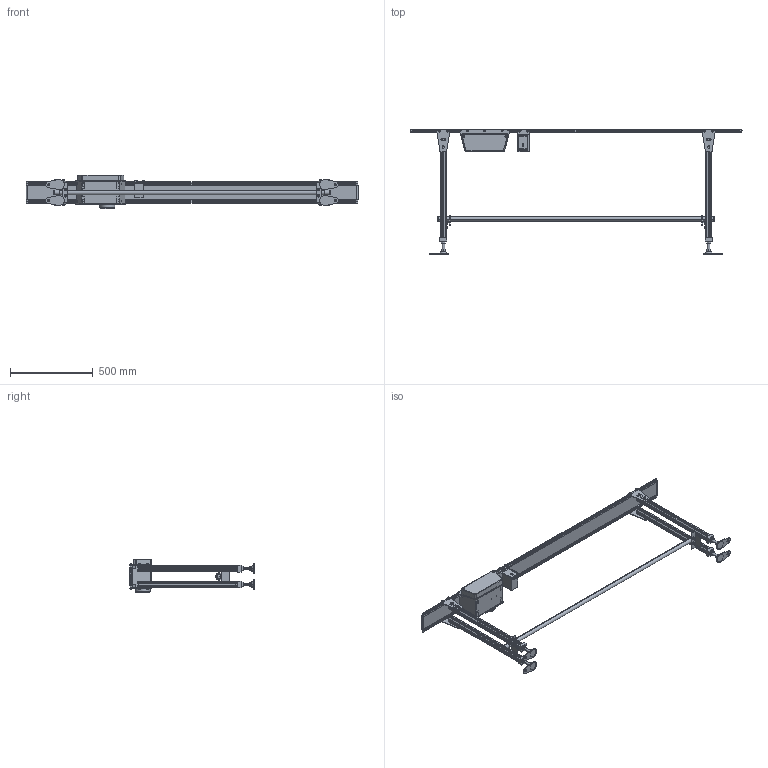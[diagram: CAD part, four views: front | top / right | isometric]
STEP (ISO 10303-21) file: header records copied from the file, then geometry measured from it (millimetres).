
FILE_DESCRIPTION( (''), '2;1');
FILE_NAME ('MMX0-304-100-200-K-180-O.stp','2025-02-17T11:57:42',(''),(''),'spGate 20.6.2 (****-****-****-****)','','');
FILE_SCHEMA (('AUTOMOTIVE_DESIGN'));
Length unit declared in the file: millimetre
Products named in the file (51): NewModel; MMX0-100-2000; TEMP_X_T-prt0; TEMP_X_T-prt1; TEMP_X_T-prt2; TEMP_X_T-prt3; TEMP_X_T-prt4; TEMP_X_T-prt5; TEMP_X_T-prt6; TEMP_X_T-prt7; TEMP_X_T-prt8; TEMP_X_T-prt9; TEMP_X_T-prt10; TEMP_X_T-prt11; TEMP_X_T-prt12; TEMP_X_T-prt13; TEMP_X_T-prt14; TEMP_X_T-prt15; TEMP_X_T-prt16; TEMP_X_T-prt17; TEMP_X_T-prt18; TEMP_X_T-prt19; TEMP_X_T-prt20; TEMP_X_T-prt21; TEMP_X_T-prt22; TEMP_X_T-prt23; TEMP_X_T-prt24; TEMP_X_T-prt25; TEMP_X_T-prt26; TEMP_X_T-prt27; TEMP_X_T-prt28; TEMP_X_T-prt29; TEMP_X_T-prt30; TEMP_X_T-prt31; TEMP_X_T-prt32; TEMP_X_T-prt33; TEMP_X_T-prt34; TEMP_X_T-prt35; TEMP_X_T-prt36; TEMP_X_T-prt37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
Assembly tree (50 placements, depth 3):
  NewModel
    MMX0-100-2000
      TEMP_X_T-prt0
      TEMP_X_T-prt1
      TEMP_X_T-prt2
      TEMP_X_T-prt3
      TEMP_X_T-prt4
      TEMP_X_T-prt5
      TEMP_X_T-prt6
      TEMP_X_T-prt7
      TEMP_X_T-prt8
      TEMP_X_T-prt9
      TEMP_X_T-prt10
      TEMP_X_T-prt11
      TEMP_X_T-prt12
      TEMP_X_T-prt13
      TEMP_X_T-prt14
      TEMP_X_T-prt15
      TEMP_X_T-prt16
      TEMP_X_T-prt17
      TEMP_X_T-prt18
      TEMP_X_T-prt19
      TEMP_X_T-prt20
      TEMP_X_T-prt21
      TEMP_X_T-prt22
      TEMP_X_T-prt23
      TEMP_X_T-prt24
      TEMP_X_T-prt25
      TEMP_X_T-prt26
      TEMP_X_T-prt27
      TEMP_X_T-prt28
      TEMP_X_T-prt29
      TEMP_X_T-prt30
      TEMP_X_T-prt31
      TEMP_X_T-prt32
      TEMP_X_T-prt33
      TEMP_X_T-prt34
      TEMP_X_T-prt35
      TEMP_X_T-prt36
      TEMP_X_T-prt37
      TEMP_X_T-prt38
      TEMP_X_T-prt39
      TEMP_X_T-prt40
      TEMP_X_T-prt41
      TEMP_X_T-prt42
      TEMP_X_T-prt43
      TEMP_X_T-prt44
      TEMP_X_T-prt45
      TEMP_X_T-prt46
      TEMP_X_T-prt47
      TEMP_X_T-prt48
Bounding box: 2002.4 x 752.2 x 204.5 mm (x, y, z)
Volume: 7640950.3 mm3; surface area: 2816651.8 mm2
Topology: 49 solids, 49 shells, 2099 faces, 5217 edges, 3273 vertices
Faces by surface type: plane 1365, cylinder 459, bspline 275
Entity records: 107448 total; most frequent: CARTESIAN_POINT 15429, ORIENTED_EDGE 10362, DIRECTION 9723, COLOUR_RGB 7329, PRESENTATION_STYLE_ASSIGNMENT 7329, STYLED_ITEM 7329, EDGE_CURVE 5181, DRAUGHTING_PRE_DEFINED_CURVE_FONT 5181
